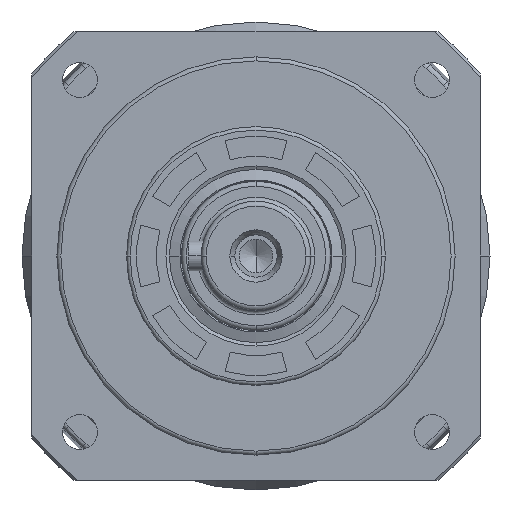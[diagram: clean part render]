
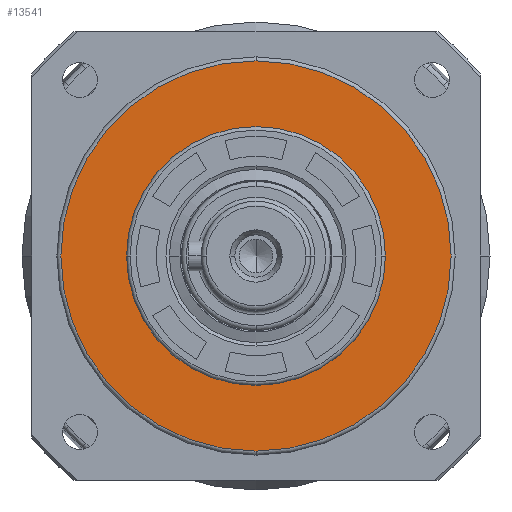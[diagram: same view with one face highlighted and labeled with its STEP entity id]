
A CAD part, left-side view. The second image highlights one B-rep face of the part: STEP entity #13541.
In plain terms, the highlighted planar face has unit normal (-1, 0, 0).
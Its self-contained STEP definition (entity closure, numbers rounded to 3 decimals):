
#1590 = AXIS2_PLACEMENT_3D ( 'NONE', #27621, #27767, #25185 ) ;
#3483 = CIRCLE ( 'NONE', #1590, 26. ) ;
#4634 = VERTEX_POINT ( 'NONE', #53986 ) ;
#4729 = AXIS2_PLACEMENT_3D ( 'NONE', #46722, #46708, #46630 ) ;
#7029 = EDGE_LOOP ( 'NONE', ( #41246, #17634 ) ) ;
#7121 = VERTEX_POINT ( 'NONE', #29007 ) ;
#8568 = CIRCLE ( 'NONE', #11245, 39.2 ) ;
#8825 = EDGE_LOOP ( 'NONE', ( #59404, #31240 ) ) ;
#11245 = AXIS2_PLACEMENT_3D ( 'NONE', #14437, #46545, #19034 ) ;
#13098 = EDGE_CURVE ( 'NONE', #19660, #4634, #15011, .T. ) ;
#13541 = ADVANCED_FACE ( 'NONE', ( #56153, #31757 ), #47120, .F. ) ;
#14437 = CARTESIAN_POINT ( 'NONE',  ( 0., 2.032, 0. ) ) ;
#15011 = CIRCLE ( 'NONE', #43116, 26. ) ;
#15335 = EDGE_CURVE ( 'NONE', #4634, #19660, #3483, .T. ) ;
#17634 = ORIENTED_EDGE ( 'NONE', *, *, #28009, .F. ) ;
#19034 = DIRECTION ( 'NONE',  ( 0., 0., 1. ) ) ;
#19660 = VERTEX_POINT ( 'NONE', #58396 ) ;
#25185 = DIRECTION ( 'NONE',  ( 0., 0., 1. ) ) ;
#26112 = VERTEX_POINT ( 'NONE', #46119 ) ;
#27621 = CARTESIAN_POINT ( 'NONE',  ( 0., 2.032, 0. ) ) ;
#27767 = DIRECTION ( 'NONE',  ( -1., 0., 0. ) ) ;
#28009 = EDGE_CURVE ( 'NONE', #7121, #26112, #42071, .T. ) ;
#29007 = CARTESIAN_POINT ( 'NONE',  ( 0., 2.032, -39.2 ) ) ;
#30315 = EDGE_CURVE ( 'NONE', #26112, #7121, #8568, .T. ) ;
#31240 = ORIENTED_EDGE ( 'NONE', *, *, #15335, .F. ) ;
#31757 = FACE_OUTER_BOUND ( 'NONE', #7029, .T. ) ;
#41246 = ORIENTED_EDGE ( 'NONE', *, *, #30315, .F. ) ;
#42071 = CIRCLE ( 'NONE', #54121, 39.2 ) ;
#43116 = AXIS2_PLACEMENT_3D ( 'NONE', #58384, #58328, #58275 ) ;
#46119 = CARTESIAN_POINT ( 'NONE',  ( 0., 2.032, 39.2 ) ) ;
#46545 = DIRECTION ( 'NONE',  ( 1., 0., 0. ) ) ;
#46630 = DIRECTION ( 'NONE',  ( 0., 0., -1. ) ) ;
#46708 = DIRECTION ( 'NONE',  ( 1., 0., 0. ) ) ;
#46722 = CARTESIAN_POINT ( 'NONE',  ( 0., 0., 0. ) ) ;
#47120 = PLANE ( 'NONE',  #4729 ) ;
#51701 = DIRECTION ( 'NONE',  ( 0., 0., 1. ) ) ;
#51762 = DIRECTION ( 'NONE',  ( 1., 0., 0. ) ) ;
#51776 = CARTESIAN_POINT ( 'NONE',  ( 0., 2.032, 0. ) ) ;
#53986 = CARTESIAN_POINT ( 'NONE',  ( 0., 2.032, -26. ) ) ;
#54121 = AXIS2_PLACEMENT_3D ( 'NONE', #51776, #51762, #51701 ) ;
#56153 = FACE_BOUND ( 'NONE', #8825, .T. ) ;
#58275 = DIRECTION ( 'NONE',  ( 0., 0., 1. ) ) ;
#58328 = DIRECTION ( 'NONE',  ( -1., 0., 0. ) ) ;
#58384 = CARTESIAN_POINT ( 'NONE',  ( 0., 2.032, 0. ) ) ;
#58396 = CARTESIAN_POINT ( 'NONE',  ( 0., 2.032, 26. ) ) ;
#59404 = ORIENTED_EDGE ( 'NONE', *, *, #13098, .F. ) ;
